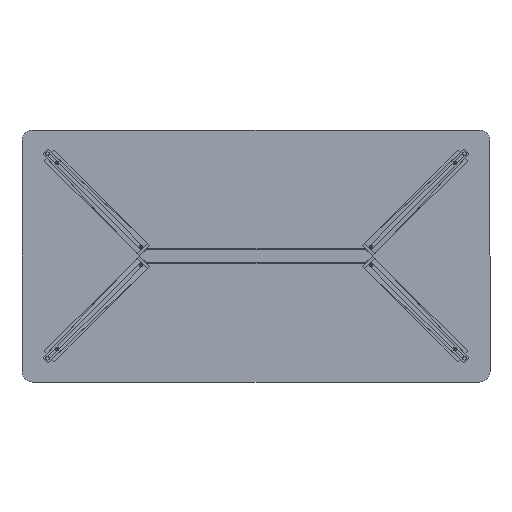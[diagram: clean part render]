
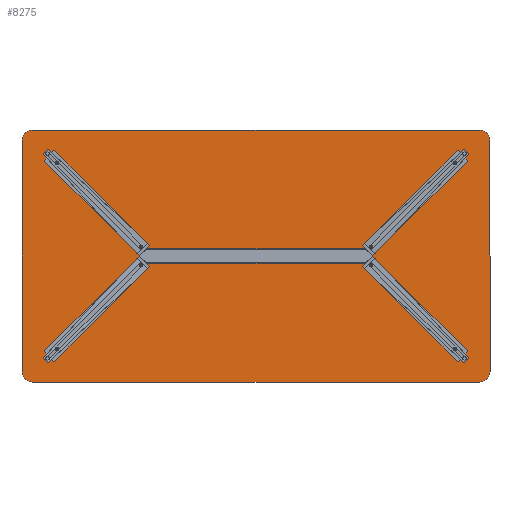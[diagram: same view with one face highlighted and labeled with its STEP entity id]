
A CAD part, front view. The second image highlights one B-rep face of the part: STEP entity #8275.
In plain terms, the highlighted planar face has unit normal (0, -1, 0).
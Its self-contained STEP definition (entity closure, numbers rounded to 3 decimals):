
#102 = CARTESIAN_POINT ( 'NONE',  ( 650., 0., 320. ) ) ;
#146 = VERTEX_POINT ( 'NONE', #9683 ) ;
#161 = VERTEX_POINT ( 'NONE', #9504 ) ;
#311 = ORIENTED_EDGE ( 'NONE', *, *, #10300, .T. ) ;
#438 = FACE_BOUND ( 'NONE', #2221, .T. ) ;
#562 = CARTESIAN_POINT ( 'NONE',  ( 563.701, 0., 275.701 ) ) ;
#636 = EDGE_CURVE ( 'NONE', #161, #5059, #10745, .T. ) ;
#644 = VERTEX_POINT ( 'NONE', #9210 ) ;
#700 = EDGE_LOOP ( 'NONE', ( #10161, #9949 ) ) ;
#705 = DIRECTION ( 'NONE',  ( 0., 1., 0. ) ) ;
#713 = ORIENTED_EDGE ( 'NONE', *, *, #3198, .F. ) ;
#729 = CARTESIAN_POINT ( 'NONE',  ( 620., 0., 350. ) ) ;
#801 = DIRECTION ( 'NONE',  ( 0., 0., 1. ) ) ;
#996 = CIRCLE ( 'NONE', #7222, 30. ) ;
#1005 = EDGE_CURVE ( 'NONE', #9317, #6756, #8812, .T. ) ;
#1076 = CIRCLE ( 'NONE', #7673, 7. ) ;
#1193 = EDGE_CURVE ( 'NONE', #11214, #9379, #1076, .T. ) ;
#1230 = CARTESIAN_POINT ( 'NONE',  ( -563.701, 0., 268.701 ) ) ;
#1523 = FACE_BOUND ( 'NONE', #700, .T. ) ;
#1547 = CARTESIAN_POINT ( 'NONE',  ( 620., 0., -350. ) ) ;
#1702 = LINE ( 'NONE', #6222, #3424 ) ;
#2028 = CARTESIAN_POINT ( 'NONE',  ( -563.701, 0., 268.701 ) ) ;
#2197 = DIRECTION ( 'NONE',  ( 0., 0., 1. ) ) ;
#2221 = EDGE_LOOP ( 'NONE', ( #10644, #311 ) ) ;
#2463 = DIRECTION ( 'NONE',  ( 0., 1., 0. ) ) ;
#2541 = DIRECTION ( 'NONE',  ( 0., 1., 0. ) ) ;
#2639 = CIRCLE ( 'NONE', #7048, 7. ) ;
#2739 = CARTESIAN_POINT ( 'NONE',  ( 620., 0., -320. ) ) ;
#2855 = LINE ( 'NONE', #6352, #10462 ) ;
#2869 = VECTOR ( 'NONE', #11148, 1000. ) ;
#2882 = EDGE_LOOP ( 'NONE', ( #8873, #8112 ) ) ;
#2943 = DIRECTION ( 'NONE',  ( 0., 0., 1. ) ) ;
#3020 = EDGE_CURVE ( 'NONE', #146, #6657, #2855, .T. ) ;
#3198 = EDGE_CURVE ( 'NONE', #7893, #6281, #1702, .T. ) ;
#3296 = ORIENTED_EDGE ( 'NONE', *, *, #9706, .F. ) ;
#3299 = CARTESIAN_POINT ( 'NONE',  ( -620., 0., 320. ) ) ;
#3326 = CARTESIAN_POINT ( 'NONE',  ( -650., 0., 320. ) ) ;
#3352 = DIRECTION ( 'NONE',  ( 0., 0., 1. ) ) ;
#3421 = CIRCLE ( 'NONE', #9825, 7. ) ;
#3424 = VECTOR ( 'NONE', #7027, 1000. ) ;
#3505 = DIRECTION ( 'NONE',  ( 0., 1., 0. ) ) ;
#3692 = DIRECTION ( 'NONE',  ( 0., 1., 0. ) ) ;
#3740 = DIRECTION ( 'NONE',  ( 0., 1., 0. ) ) ;
#3749 = DIRECTION ( 'NONE',  ( 0., 0., 1. ) ) ;
#3900 = DIRECTION ( 'NONE',  ( 0., 1., 0. ) ) ;
#3944 = CARTESIAN_POINT ( 'NONE',  ( -620., 0., -350. ) ) ;
#4118 = AXIS2_PLACEMENT_3D ( 'NONE', #7426, #10954, #11119 ) ;
#4129 = CARTESIAN_POINT ( 'NONE',  ( 563.701, 0., 261.701 ) ) ;
#4144 = CARTESIAN_POINT ( 'NONE',  ( -620., 0., -350. ) ) ;
#4267 = DIRECTION ( 'NONE',  ( 0., 1., 0. ) ) ;
#4355 = EDGE_LOOP ( 'NONE', ( #4836, #7779, #4677, #10379, #3296, #7909, #7475, #713 ) ) ;
#4455 = VERTEX_POINT ( 'NONE', #1547 ) ;
#4636 = CARTESIAN_POINT ( 'NONE',  ( -563.701, 0., 275.701 ) ) ;
#4677 = ORIENTED_EDGE ( 'NONE', *, *, #9122, .F. ) ;
#4709 = AXIS2_PLACEMENT_3D ( 'NONE', #7162, #2541, #3352 ) ;
#4721 = CARTESIAN_POINT ( 'NONE',  ( -563.701, 0., -275.701 ) ) ;
#4794 = AXIS2_PLACEMENT_3D ( 'NONE', #2739, #3505, #9744 ) ;
#4836 = ORIENTED_EDGE ( 'NONE', *, *, #7479, .F. ) ;
#4857 = PLANE ( 'NONE',  #4118 ) ;
#4861 = AXIS2_PLACEMENT_3D ( 'NONE', #1230, #3900, #7369 ) ;
#4914 = VERTEX_POINT ( 'NONE', #4129 ) ;
#5059 = VERTEX_POINT ( 'NONE', #4636 ) ;
#5147 = CARTESIAN_POINT ( 'NONE',  ( 650., 0., -320. ) ) ;
#5175 = CARTESIAN_POINT ( 'NONE',  ( -563.701, 0., -268.701 ) ) ;
#5754 = EDGE_CURVE ( 'NONE', #4455, #10906, #8117, .T. ) ;
#6127 = VERTEX_POINT ( 'NONE', #7270 ) ;
#6222 = CARTESIAN_POINT ( 'NONE',  ( 650., 0., -320. ) ) ;
#6281 = VERTEX_POINT ( 'NONE', #5147 ) ;
#6352 = CARTESIAN_POINT ( 'NONE',  ( -650., 0., -320. ) ) ;
#6371 = CARTESIAN_POINT ( 'NONE',  ( -563.701, 0., -261.701 ) ) ;
#6633 = DIRECTION ( 'NONE',  ( 0., 0., 1. ) ) ;
#6657 = VERTEX_POINT ( 'NONE', #3326 ) ;
#6756 = VERTEX_POINT ( 'NONE', #729 ) ;
#6814 = DIRECTION ( 'NONE',  ( 0., 1., 0. ) ) ;
#7027 = DIRECTION ( 'NONE',  ( 0., 0., -1. ) ) ;
#7048 = AXIS2_PLACEMENT_3D ( 'NONE', #8076, #3740, #10898 ) ;
#7162 = CARTESIAN_POINT ( 'NONE',  ( 620., 0., 320. ) ) ;
#7222 = AXIS2_PLACEMENT_3D ( 'NONE', #3299, #705, #7414 ) ;
#7260 = CIRCLE ( 'NONE', #8374, 7. ) ;
#7270 = CARTESIAN_POINT ( 'NONE',  ( 563.701, 0., -261.701 ) ) ;
#7329 = EDGE_CURVE ( 'NONE', #5059, #161, #3421, .T. ) ;
#7369 = DIRECTION ( 'NONE',  ( 0., 0., 1. ) ) ;
#7386 = EDGE_CURVE ( 'NONE', #7796, #4914, #9103, .T. ) ;
#7414 = DIRECTION ( 'NONE',  ( 0., 0., 1. ) ) ;
#7426 = CARTESIAN_POINT ( 'NONE',  ( 620., 0., 320. ) ) ;
#7451 = EDGE_CURVE ( 'NONE', #9379, #11214, #7260, .T. ) ;
#7475 = ORIENTED_EDGE ( 'NONE', *, *, #9989, .F. ) ;
#7479 = EDGE_CURVE ( 'NONE', #6756, #7893, #10951, .T. ) ;
#7673 = AXIS2_PLACEMENT_3D ( 'NONE', #11204, #6814, #801 ) ;
#7674 = EDGE_CURVE ( 'NONE', #644, #6127, #9983, .T. ) ;
#7709 = ORIENTED_EDGE ( 'NONE', *, *, #7451, .T. ) ;
#7721 = AXIS2_PLACEMENT_3D ( 'NONE', #11332, #4267, #8791 ) ;
#7758 = DIRECTION ( 'NONE',  ( 0., 1., 0. ) ) ;
#7764 = EDGE_LOOP ( 'NONE', ( #11191, #7709 ) ) ;
#7779 = ORIENTED_EDGE ( 'NONE', *, *, #1005, .F. ) ;
#7796 = VERTEX_POINT ( 'NONE', #562 ) ;
#7893 = VERTEX_POINT ( 'NONE', #102 ) ;
#7909 = ORIENTED_EDGE ( 'NONE', *, *, #5754, .F. ) ;
#8010 = AXIS2_PLACEMENT_3D ( 'NONE', #10226, #10990, #2197 ) ;
#8034 = CARTESIAN_POINT ( 'NONE',  ( -620., 0., -320. ) ) ;
#8076 = CARTESIAN_POINT ( 'NONE',  ( 563.701, 0., 268.701 ) ) ;
#8104 = EDGE_CURVE ( 'NONE', #4914, #7796, #2639, .T. ) ;
#8112 = ORIENTED_EDGE ( 'NONE', *, *, #7329, .T. ) ;
#8117 = LINE ( 'NONE', #4144, #2869 ) ;
#8275 = ADVANCED_FACE ( 'NONE', ( #1523, #438, #11062, #9433, #11178 ), #4857, .F. ) ;
#8326 = AXIS2_PLACEMENT_3D ( 'NONE', #11254, #2463, #6633 ) ;
#8374 = AXIS2_PLACEMENT_3D ( 'NONE', #5175, #7758, #9760 ) ;
#8791 = DIRECTION ( 'NONE',  ( 0., 0., 1. ) ) ;
#8812 = LINE ( 'NONE', #10536, #11109 ) ;
#8833 = CIRCLE ( 'NONE', #4794, 30. ) ;
#8873 = ORIENTED_EDGE ( 'NONE', *, *, #636, .T. ) ;
#8923 = DIRECTION ( 'NONE',  ( 0., 1., 0. ) ) ;
#9003 = AXIS2_PLACEMENT_3D ( 'NONE', #8034, #3692, #3749 ) ;
#9103 = CIRCLE ( 'NONE', #8010, 7. ) ;
#9122 = EDGE_CURVE ( 'NONE', #6657, #9317, #996, .T. ) ;
#9210 = CARTESIAN_POINT ( 'NONE',  ( 563.701, 0., -275.701 ) ) ;
#9317 = VERTEX_POINT ( 'NONE', #9996 ) ;
#9379 = VERTEX_POINT ( 'NONE', #6371 ) ;
#9433 = FACE_BOUND ( 'NONE', #2882, .T. ) ;
#9504 = CARTESIAN_POINT ( 'NONE',  ( -563.701, 0., 261.701 ) ) ;
#9683 = CARTESIAN_POINT ( 'NONE',  ( -650., 0., -320. ) ) ;
#9706 = EDGE_CURVE ( 'NONE', #10906, #146, #10474, .T. ) ;
#9744 = DIRECTION ( 'NONE',  ( 0., 0., -1. ) ) ;
#9760 = DIRECTION ( 'NONE',  ( 0., 0., 1. ) ) ;
#9825 = AXIS2_PLACEMENT_3D ( 'NONE', #2028, #8923, #2943 ) ;
#9869 = DIRECTION ( 'NONE',  ( 0., 0., 1. ) ) ;
#9949 = ORIENTED_EDGE ( 'NONE', *, *, #7386, .T. ) ;
#9983 = CIRCLE ( 'NONE', #8326, 7. ) ;
#9989 = EDGE_CURVE ( 'NONE', #6281, #4455, #8833, .T. ) ;
#9996 = CARTESIAN_POINT ( 'NONE',  ( -620., 0., 350. ) ) ;
#10161 = ORIENTED_EDGE ( 'NONE', *, *, #8104, .T. ) ;
#10226 = CARTESIAN_POINT ( 'NONE',  ( 563.701, 0., 268.701 ) ) ;
#10300 = EDGE_CURVE ( 'NONE', #6127, #644, #10850, .T. ) ;
#10379 = ORIENTED_EDGE ( 'NONE', *, *, #3020, .F. ) ;
#10462 = VECTOR ( 'NONE', #9869, 1000. ) ;
#10474 = CIRCLE ( 'NONE', #9003, 30. ) ;
#10536 = CARTESIAN_POINT ( 'NONE',  ( -620., 0., 350. ) ) ;
#10596 = DIRECTION ( 'NONE',  ( 1., 0., 0. ) ) ;
#10644 = ORIENTED_EDGE ( 'NONE', *, *, #7674, .T. ) ;
#10745 = CIRCLE ( 'NONE', #4861, 7. ) ;
#10850 = CIRCLE ( 'NONE', #7721, 7. ) ;
#10898 = DIRECTION ( 'NONE',  ( 0., 0., 1. ) ) ;
#10906 = VERTEX_POINT ( 'NONE', #3944 ) ;
#10951 = CIRCLE ( 'NONE', #4709, 30. ) ;
#10954 = DIRECTION ( 'NONE',  ( 0., 1., 0. ) ) ;
#10990 = DIRECTION ( 'NONE',  ( 0., 1., 0. ) ) ;
#11062 = FACE_BOUND ( 'NONE', #7764, .T. ) ;
#11109 = VECTOR ( 'NONE', #10596, 1000. ) ;
#11119 = DIRECTION ( 'NONE',  ( 0., 0., 1. ) ) ;
#11148 = DIRECTION ( 'NONE',  ( -1., 0., 0. ) ) ;
#11178 = FACE_OUTER_BOUND ( 'NONE', #4355, .T. ) ;
#11191 = ORIENTED_EDGE ( 'NONE', *, *, #1193, .T. ) ;
#11204 = CARTESIAN_POINT ( 'NONE',  ( -563.701, 0., -268.701 ) ) ;
#11214 = VERTEX_POINT ( 'NONE', #4721 ) ;
#11254 = CARTESIAN_POINT ( 'NONE',  ( 563.701, 0., -268.701 ) ) ;
#11332 = CARTESIAN_POINT ( 'NONE',  ( 563.701, 0., -268.701 ) ) ;
